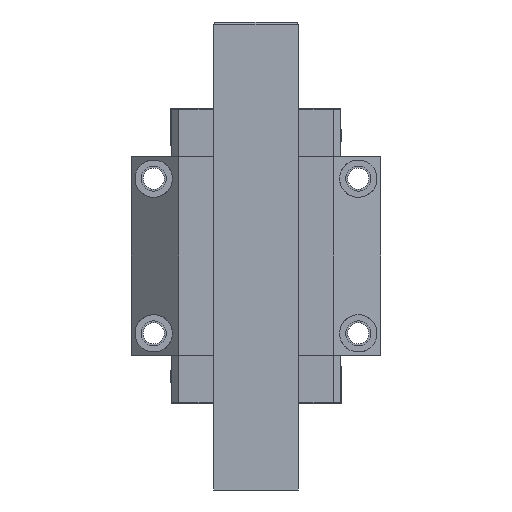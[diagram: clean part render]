
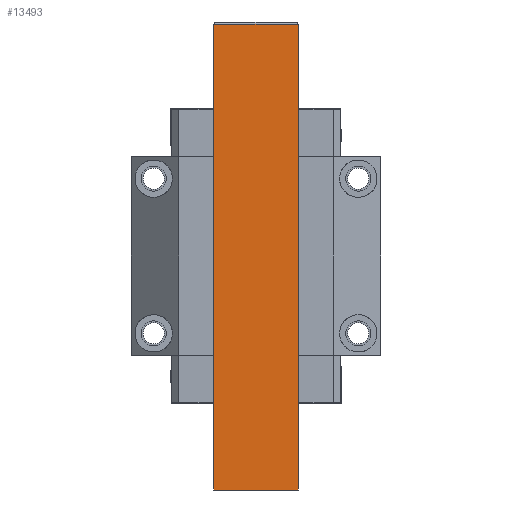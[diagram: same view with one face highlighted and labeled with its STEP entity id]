
A CAD part, front view. The second image highlights one B-rep face of the part: STEP entity #13493.
In plain terms, the highlighted planar face has unit normal (0, -1, 0).
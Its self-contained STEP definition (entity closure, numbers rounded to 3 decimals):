
#12830=DIRECTION('',(1.,0.,0.));
#12831=VECTOR('',#12830,34.);
#12832=CARTESIAN_POINT('',(-17.,-18.9,-93.8));
#12833=LINE('',#12832,#12831);
#12954=DIRECTION('',(0.,0.,1.));
#12955=VECTOR('',#12954,186.734);
#12956=CARTESIAN_POINT('',(17.,-18.9,-93.8));
#12957=LINE('',#12956,#12955);
#12958=DIRECTION('',(1.,0.,0.));
#12959=VECTOR('',#12958,34.);
#12960=CARTESIAN_POINT('',(-17.,-18.9,92.934));
#12961=LINE('',#12960,#12959);
#12962=DIRECTION('',(0.,0.,1.));
#12963=VECTOR('',#12962,186.734);
#12964=CARTESIAN_POINT('',(-17.,-18.9,-93.8));
#12965=LINE('',#12964,#12963);
#13146=CARTESIAN_POINT('',(17.,-18.9,92.934));
#13148=VERTEX_POINT('',#13146);
#13150=CARTESIAN_POINT('',(-17.,-18.9,92.934));
#13152=VERTEX_POINT('',#13150);
#13194=CARTESIAN_POINT('',(-17.,-18.9,-93.8));
#13195=VERTEX_POINT('',#13194);
#13196=CARTESIAN_POINT('',(17.,-18.9,-93.8));
#13197=VERTEX_POINT('',#13196);
#13480=CARTESIAN_POINT('',(-17.,-18.9,-93.8));
#13481=DIRECTION('',(0.,-1.,0.));
#13482=DIRECTION('',(1.,0.,0.));
#13483=AXIS2_PLACEMENT_3D('',#13480,#13481,#13482);
#13484=PLANE('',#13483);
#13486=ORIENTED_EDGE('',*,*,#13485,.T.);
#13487=ORIENTED_EDGE('',*,*,#13475,.F.);
#13488=ORIENTED_EDGE('',*,*,#13235,.F.);
#13490=ORIENTED_EDGE('',*,*,#13489,.T.);
#13491=EDGE_LOOP('',(#13486,#13487,#13488,#13490));
#13492=FACE_OUTER_BOUND('',#13491,.F.);
#13235=EDGE_CURVE('',#13195,#13197,#12833,.T.);
#13475=EDGE_CURVE('',#13197,#13148,#12957,.T.);
#13485=EDGE_CURVE('',#13152,#13148,#12961,.T.);
#13489=EDGE_CURVE('',#13195,#13152,#12965,.T.);
#13493=ADVANCED_FACE('',(#13492),#13484,.T.);
